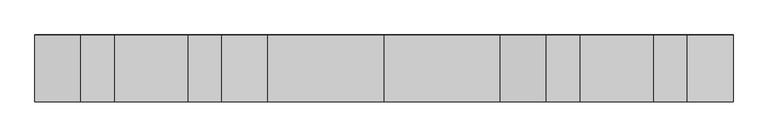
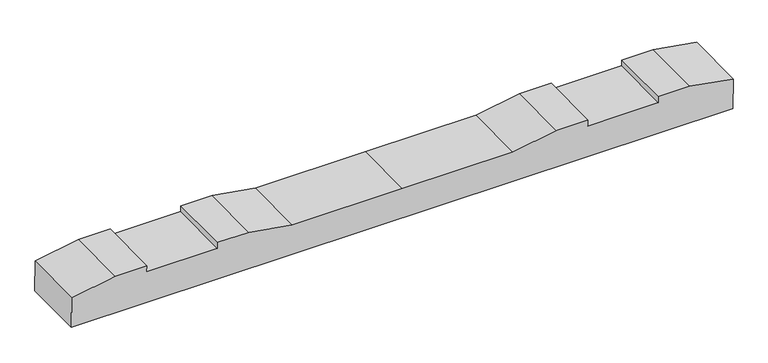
"""IFC4 building model written with IfcOpenShell, lengths in millimetres: proxy geometry, 轨枕-立面角度 : 轨枕-立面角度."""

from ifc_helpers import new_model, si_unit, frame, origin, place, context, project, spatial, polyline, outline, extrude, source, transform, mapped, element, save


def generic_models_530a410d(model_context):
    return source(origin(), model_context, "Body", "SweptSolid", [
        extrude(outline(polyline([(0.0, 0.0), (2099.7669328, 0.0), (2099.7669328, -100.020689), (1961.8834664, -124.5), (1861.8834664, -124.5), (1861.8834664, -104.5), (1637.8834664, -104.5), (1637.8834664, -124.5), (1537.8834664, -124.5), (1399.8834664, -100.0), (1049.8834664, -100.0), (699.8834664, -100.0), (561.8834664, -124.5), (461.8834664, -124.5), (461.8834664, -104.5), (237.8834664, -104.5), (237.8834664, -124.5), (137.8834664, -124.5), (0.0, -100.020689), (0.0, 0.0)])), frame((-1049.8834664, -98.647766, -105.7774469), z_axis=(0.0, 0.9999172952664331, 0.012860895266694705), x_axis=(1.0, 0.0, 0.0)), (0.0, 0.0, 1.0), 200.0),
    ])


if __name__ == "__main__":
    model = new_model("IFC4")
    model_context = context("Model", 3, world=origin())
    ifc_project = project(units=[si_unit("LENGTHUNIT", "METRE", prefix="MILLI")], contexts=[model_context])
    site = spatial("IfcSite", under=ifc_project)
    building = spatial("IfcBuilding", under=site)
    placement = place(None, origin())
    generic_models_shape = generic_models_530a410d(model_context)
    element("IfcBuildingElementProxy", 1, Name="轨枕-立面角度 : 轨枕-立面角度", ObjectType="轨枕-立面角度 : 轨枕-立面角度", at=placement, inside=building, context=model_context, shape_type="MappedRepresentation", body=[
        mapped(generic_models_shape, transform((0.0, 0.0, 0.0), x_axis=(1.0, 0.0, 0.0), y_axis=(0.0, 1.0, 0.0), z_axis=(0.0, 0.0, 1.0))),
    ])
    save(model, "model.ifc")
